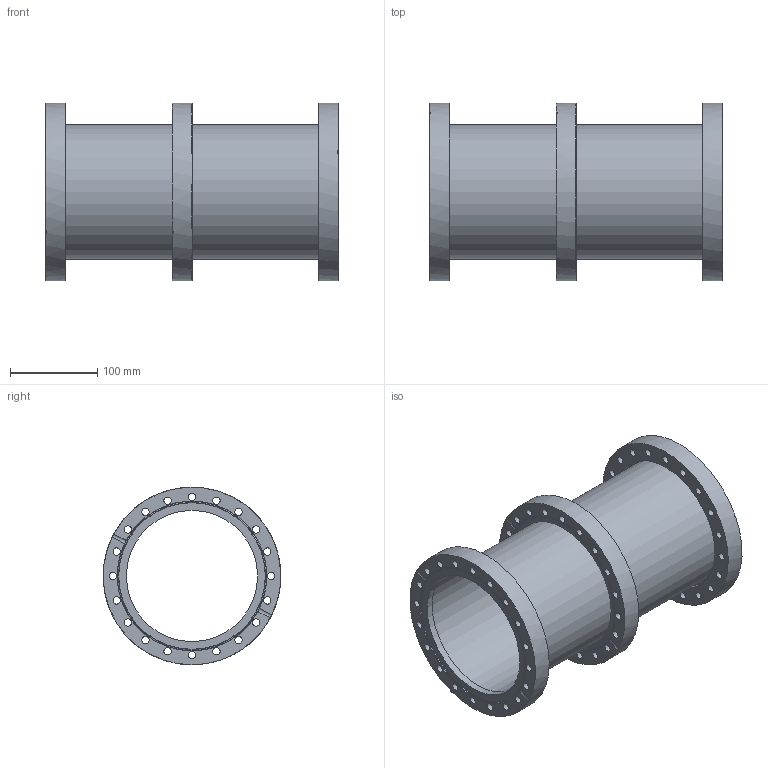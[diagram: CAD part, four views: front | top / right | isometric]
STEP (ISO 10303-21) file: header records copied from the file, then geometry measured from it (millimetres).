
FILE_DESCRIPTION( ( 'Unknown' ), '1' );
FILE_NAME( 'X:/Daten ( aktueller Bestand )/Projekte und Zeichnungen/Solid Edge/14 CF Verzweigungen/CF-Zwischenstück, 1 Flansch drehbar/7175R.stp', 'Unknown', ( 'Unknown' ), ( 'Unknown' ), 'XStep 1.0', 'Unknown', ' ' );
FILE_SCHEMA( ( 'automotive_design' ) );
Length unit declared in the file: millimetre
Products named in the file (6): Assem1; Assem2; 7515R-1; 7515R-2; 7175F-1; 7197-2
Bounding box: 334 x 203 x 203 mm (x, y, z)
Volume: 1985366.4 mm3; surface area: 990646.6 mm2
Topology: 10 solids, 10 shells, 185 faces, 570 edges, 410 vertices
Faces by surface type: cylinder 140, plane 35, cone 10
Full cylindrical faces by diameter (mm): 8.4 x100, 150 x4, 150.5 x3, 154 x2, 154.3 x5, 160 x3, 171 x5, 171.2 x3, 203 x5
Entity records: 2441 total; most frequent: CARTESIAN_POINT 464, DIRECTION 392, ORIENTED_EDGE 256, EDGE_LOOP 220, AXIS2_PLACEMENT_3D 192, EDGE_CURVE 128, FACE_OUTER_BOUND 126, VERTEX_POINT 120
